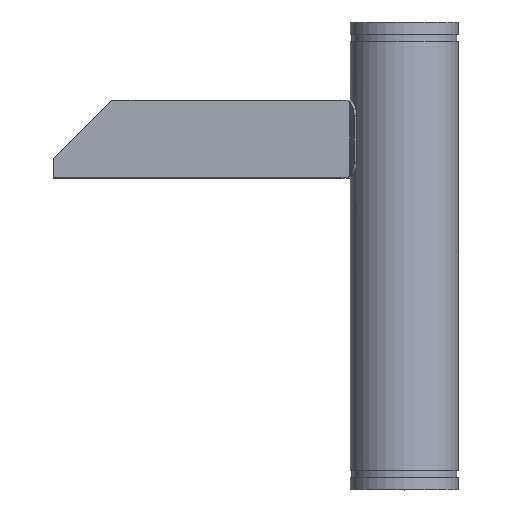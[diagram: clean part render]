
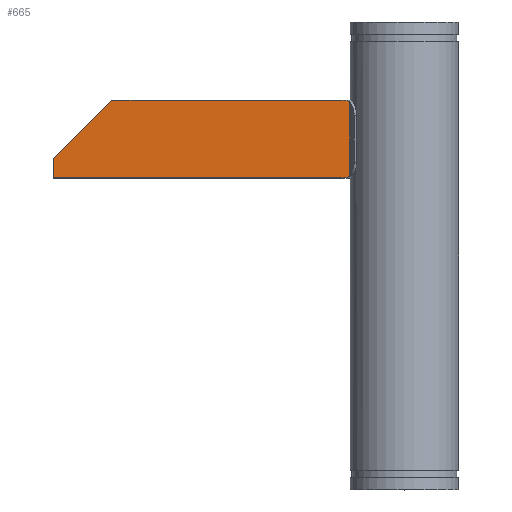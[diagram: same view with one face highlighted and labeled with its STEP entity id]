
A CAD part, top view. The second image highlights one B-rep face of the part: STEP entity #665.
In plain terms, the highlighted planar face has unit normal (0, 0, 1).
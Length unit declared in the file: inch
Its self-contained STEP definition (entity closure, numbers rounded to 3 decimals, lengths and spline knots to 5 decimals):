
#56=PLANE('',#722);
#80=FACE_OUTER_BOUND('',#114,.T.);
#114=EDGE_LOOP('',(#452,#453,#454,#455,#456,#457,#458));
#171=LINE('',#1108,#221);
#172=LINE('',#1112,#222);
#173=LINE('',#1114,#223);
#174=LINE('',#1116,#224);
#175=LINE('',#1117,#225);
#221=VECTOR('',#818,0.3937);
#222=VECTOR('',#821,0.3937);
#223=VECTOR('',#822,0.3937);
#224=VECTOR('',#823,0.3937);
#225=VECTOR('',#824,0.3937);
#260=ELLIPSE('',#721,0.92376,0.8);
#261=ELLIPSE('',#723,0.92376,0.8);
#275=VERTEX_POINT('',#1068);
#276=VERTEX_POINT('',#1069);
#280=VERTEX_POINT('',#1107);
#281=VERTEX_POINT('',#1109);
#282=VERTEX_POINT('',#1111);
#283=VERTEX_POINT('',#1113);
#284=VERTEX_POINT('',#1115);
#345=EDGE_CURVE('',#275,#276,#260,.T.);
#350=EDGE_CURVE('',#275,#280,#171,.T.);
#351=EDGE_CURVE('',#281,#280,#261,.T.);
#352=EDGE_CURVE('',#282,#281,#172,.T.);
#353=EDGE_CURVE('',#282,#283,#173,.T.);
#354=EDGE_CURVE('',#284,#283,#174,.T.);
#355=EDGE_CURVE('',#276,#284,#175,.T.);
#452=ORIENTED_EDGE('',*,*,#345,.F.);
#453=ORIENTED_EDGE('',*,*,#350,.T.);
#454=ORIENTED_EDGE('',*,*,#351,.F.);
#455=ORIENTED_EDGE('',*,*,#352,.F.);
#456=ORIENTED_EDGE('',*,*,#353,.T.);
#457=ORIENTED_EDGE('',*,*,#354,.F.);
#458=ORIENTED_EDGE('',*,*,#355,.F.);
#665=ADVANCED_FACE('',(#80),#56,.T.);
#721=AXIS2_PLACEMENT_3D('',#1070,#812,#813);
#722=AXIS2_PLACEMENT_3D('',#1106,#816,#817);
#723=AXIS2_PLACEMENT_3D('',#1110,#819,#820);
#812=DIRECTION('center_axis',(0.,0.,-1.));
#813=DIRECTION('ref_axis',(1.,0.,0.));
#816=DIRECTION('center_axis',(0.,0.,1.));
#817=DIRECTION('ref_axis',(1.,0.,0.));
#818=DIRECTION('',(0.,1.,0.));
#819=DIRECTION('center_axis',(0.,0.,-1.));
#820=DIRECTION('ref_axis',(1.,0.,0.));
#821=DIRECTION('',(1.,0.,0.));
#822=DIRECTION('',(-0.707,-0.707,0.));
#823=DIRECTION('',(0.,1.,0.));
#824=DIRECTION('',(-1.,0.,0.));
#1068=CARTESIAN_POINT('',(-2.8088,4.08014,1.));
#1069=CARTESIAN_POINT('',(-3.21178,4.,1.));
#1070=CARTESIAN_POINT('Origin',(-3.21178,4.8,1.));
#1106=CARTESIAN_POINT('Origin',(-18.,4.,1.));
#1107=CARTESIAN_POINT('',(-2.8088,7.91986,1.));
#1108=CARTESIAN_POINT('',(-2.8088,4.,1.));
#1109=CARTESIAN_POINT('',(-3.21178,8.,1.));
#1110=CARTESIAN_POINT('Origin',(-3.21178,7.2,1.));
#1111=CARTESIAN_POINT('',(-15.,8.,1.));
#1112=CARTESIAN_POINT('',(0.,8.,1.));
#1113=CARTESIAN_POINT('',(-18.,5.,1.));
#1114=CARTESIAN_POINT('',(-18.25,4.75,1.));
#1115=CARTESIAN_POINT('',(-18.,4.,1.));
#1116=CARTESIAN_POINT('',(-18.,4.,1.));
#1117=CARTESIAN_POINT('',(0.,4.,1.));
